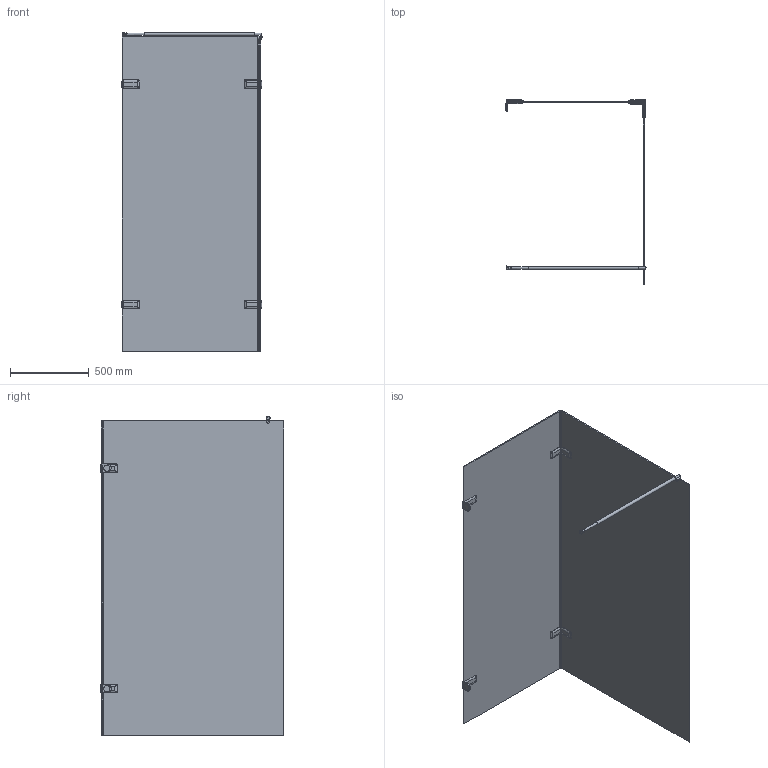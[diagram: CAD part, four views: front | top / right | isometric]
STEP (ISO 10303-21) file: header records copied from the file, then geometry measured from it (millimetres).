
FILE_DESCRIPTION(/* description */ (''),/* implementation_level */ '2;1');
FILE_NAME(/* name */ 'E:\Работа\Сергей\Душевые кабинки\! Работа\!!!!\50\TREND DOOR GK-882NG\TREND DOOR GK-882NG левая модель\TREND DOOR GK-882NG ЛЕВАЯ-3D.stp',/* time_stamp */ '2018-11-06T19:51:39+03:00',/* author */ ('PC'),/* organization */ (''),/* preprocessor_version */ 'ST-DEVELOPER v15.2',/* originating_system */ 'Autodesk Inventor 2014',/* authorisation */ '');
FILE_SCHEMA (('CONFIG_CONTROL_DESIGN'));
Length unit declared in the file: millimetre
Products named in the file (1): TREND DOOR GK-882NG ЛЕВАЯ-3D
Bounding box: 891 x 1168 x 2030.5 mm (x, y, z)
Volume: 33144999.6 mm3; surface area: 8330979.8 mm2
Topology: 3 solids, 3 shells, 250 faces, 652 edges, 399 vertices
Faces by surface type: plane 121, cylinder 64, bspline 45, torus 16, sphere 2, cone 2
Full cylindrical faces by diameter (mm): 15 x2, 20 x3, 26 x1, 40 x2
Entity records: 10623 total; most frequent: CARTESIAN_POINT 4648, ORIENTED_EDGE 1198, DIRECTION 1077, EDGE_CURVE 599, VERTEX_POINT 387, LINE 365, VECTOR 365, AXIS2_PLACEMENT_3D 356
